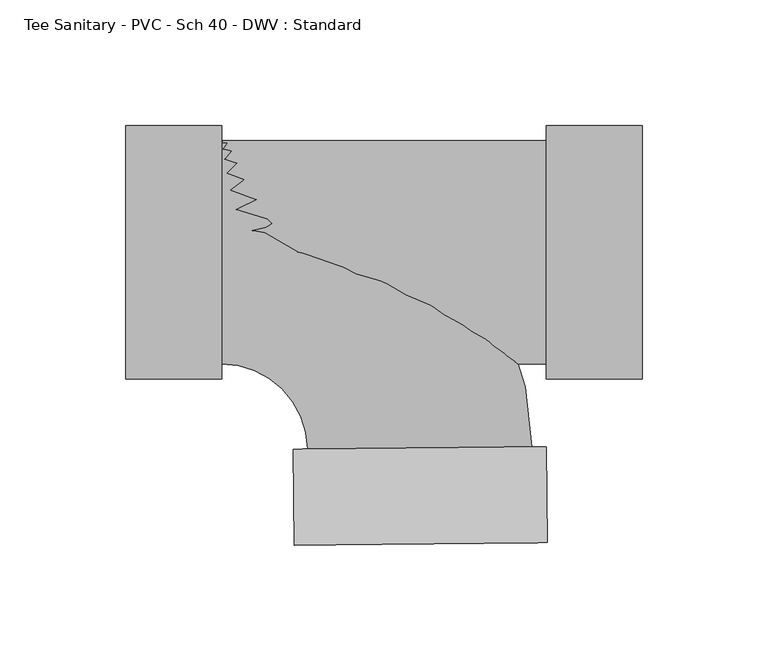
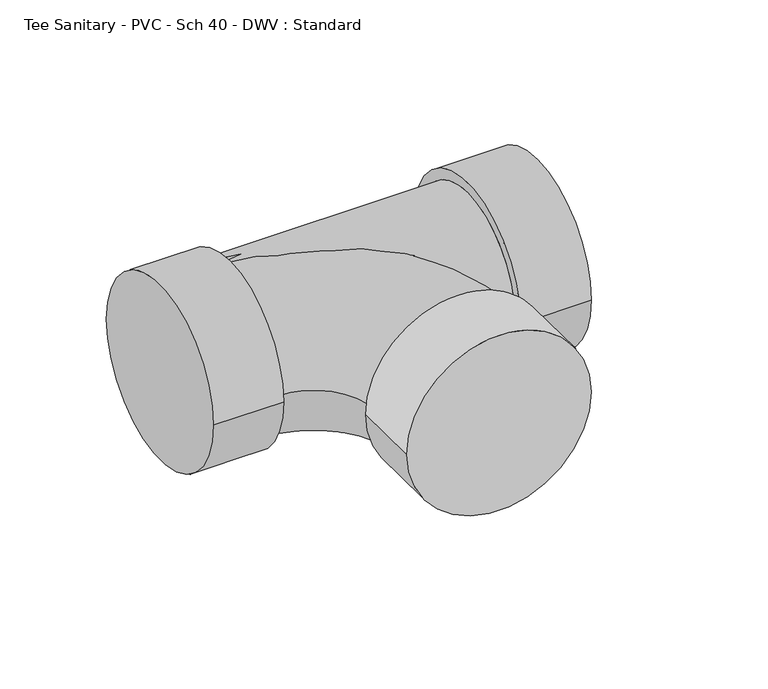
"""IFC4 building model written with IfcOpenShell, lengths in millimetres: pipe fitting geometry, Tee Sanitary - PVC - Sch 40 - DWV : Standard."""

from ifc_helpers import new_model, si_unit, point, frame, origin, place, context, project, spatial, circle_curve, ellipse_curve, trimmed, source, transform, mapped, element, save
from ifc_brep_helpers import plane_surface, cylinder_surface, revolved_surface, advanced_brep


def tee_sanitary_pvc_sch_40_dwv_standard_33d2d55c(model_context):
    return source(origin(), model_context, "Body", "AdvancedBrep", [
        advanced_brep(
        [(-77.8002, -44.45, 0.0), (-77.8002, 44.45, 0.0), (-43.6559239, -78.2485395, 0.0), (45.2394722, -77.3438024, 0.0), (51.4435155, -115.3826337, 0.0), (-49.0844782, -116.405762, 0.0), (51.055771, -77.2846068, 0.0), (-49.4722227, -78.3077351, 0.0)],
        [
            (0, 1, circle_curve(frame((-77.8002, 0.0, 0.0), z_axis=(-1.0, 0.0, 0.0), x_axis=(0.0, 1.0, 0.0)), 44.45)),
            (1, 0, circle_curve(frame((-77.8002, 0.0, 0.0), z_axis=(-1.0, 0.0, 0.0), x_axis=(0.0, 1.0, 0.0)), 44.45)),
            (0, 2, circle_curve(frame((-77.8002, -78.5960444, 0.0), z_axis=(0.0, 0.0, -1.0), x_axis=(0.0, 1.0, 0.0)), 34.1460444)),
            (2, 3, circle_curve(frame((0.7917742, -77.7961709, 0.0), z_axis=(-0.010177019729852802, 0.9999482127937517, 0.0), x_axis=(0.9999482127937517, 0.010177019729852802, 0.0)), 44.45)),
            (3, 1, circle_curve(frame((-77.8002, -78.5960444, 0.0), z_axis=(0.0, 0.0, 1.0), x_axis=(0.0, 1.0, 0.0)), 123.0460444)),
            (3, 2, circle_curve(frame((0.7917742, -77.7961709, 0.0), z_axis=(-0.010177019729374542, 0.9999482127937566, 0.0), x_axis=(0.9999482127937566, 0.010177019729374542, 0.0)), 44.45)),
            (4, 5, circle_curve(frame((1.1795186, -115.8941979, 0.0), z_axis=(0.010177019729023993, -0.9999482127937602, 0.0), x_axis=(-0.9999482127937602, -0.010177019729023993, 0.0)), 50.2666)),
            (5, 4, circle_curve(frame((1.1795186, -115.8941979, 0.0), z_axis=(0.010177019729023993, -0.9999482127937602, 0.0), x_axis=(-0.9999482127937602, -0.010177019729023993, 0.0)), 50.2666)),
            (6, 7, circle_curve(frame((0.7917742, -77.7961709, 0.0), z_axis=(-0.010177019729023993, 0.9999482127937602, 0.0), x_axis=(-0.9999482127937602, -0.010177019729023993, 0.0)), 50.2666)),
            (7, 6, circle_curve(frame((0.7917742, -77.7961709, 0.0), z_axis=(-0.010177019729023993, 0.9999482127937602, 0.0), x_axis=(-0.9999482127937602, -0.010177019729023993, 0.0)), 50.2666)),
            (4, 6),
            (7, 5),
        ],
        [
            plane_surface(frame((-77.8002, 0.0, 0.0), z_axis=(-1.0, 0.0, 0.0), x_axis=(0.0, 0.0, 1.0))),
            revolved_surface(trimmed(ellipse_curve(frame((-77.8002, 0.0, 0.0), z_axis=(-1.0, 0.0, 0.0), x_axis=(0.0, 1.0, 0.0)), 44.45, 44.45), [point((-77.8002, -44.45, 0.0))], [point((-77.8002, 44.45, 0.0))], True, "CARTESIAN"), (-77.8002, -78.5960444, 0.0), (0.0, 0.0, -1.0)),
            revolved_surface(trimmed(ellipse_curve(frame((-77.8002, 0.0, 0.0), z_axis=(-1.0, 0.0, 0.0), x_axis=(0.0, 1.0, 0.0)), 44.45, 44.45), [point((-77.8002, 44.45, 0.0))], [point((-77.8002, -44.45, 0.0))], True, "CARTESIAN"), (-77.8002, -78.5960444, 0.0), (0.0, 0.0, -1.0)),
            plane_surface(frame((1.1795186, -115.8941979, 0.0), z_axis=(0.010177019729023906, -0.9999482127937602, 0.0), x_axis=(0.0, 0.0, 1.0))),
            plane_surface(frame((0.7917742, -77.7961709, 0.0), z_axis=(-0.010177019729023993, 0.9999482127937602, 0.0), x_axis=(0.0, 0.0, 1.0))),
            cylinder_surface(frame((1.1795186, -115.8941979, 0.0), z_axis=(0.010177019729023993, -0.9999482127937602, 0.0), x_axis=(-0.9999482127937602, -0.010177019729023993, 0.0)), 50.2666),
        ],
        [
            (0, [[1, 2]]),
            (1, [[-1, 3, 4, 5]]),
            (2, [[-2, -5, 6, -3]]),
            (3, [[7, 8]]),
            (4, [[9, 10], [-4, -6]]),
            (5, [[-7, 11, -10, 12]]),
            (5, [[-8, -12, -9, -11]]),
        ],
    ),
        advanced_brep(
        [(-77.8002, -44.45, 0.0), (51.055771, -44.45, 0.0), (51.055771, 44.45, 0.0), (-77.8002, 44.45, 0.0), (51.055771, -50.2666, 0.0), (51.055771, 50.2666, 0.0), (89.155771, -50.2666, 0.0), (89.155771, 50.2666, 0.0), (-115.9002, -50.2666, 0.0), (-115.9002, 50.2666, 0.0), (-77.8002, -50.2666, 0.0), (-77.8002, 50.2666, 0.0)],
        [
            (0, 1),
            (1, 2, circle_curve(frame((51.055771, 0.0, 0.0), z_axis=(-1.0, 0.0, 0.0), x_axis=(0.0, 1.0, 0.0)), 44.45)),
            (2, 3),
            (3, 0, circle_curve(frame((-77.8002, 0.0, 0.0), z_axis=(1.0, 0.0, 0.0), x_axis=(0.0, 1.0, 0.0)), 44.45)),
            (0, 3, circle_curve(frame((-77.8002, 0.0, 0.0), z_axis=(1.0, 0.0, 0.0), x_axis=(0.0, 1.0, 0.0)), 44.45)),
            (2, 1, circle_curve(frame((51.055771, 0.0, 0.0), z_axis=(-1.0, 0.0, 0.0), x_axis=(0.0, 1.0, 0.0)), 44.45)),
            (4, 5, circle_curve(frame((51.055771, 0.0, 0.0), z_axis=(-1.0, 0.0, 0.0), x_axis=(0.0, 1.0, 0.0)), 50.2666)),
            (5, 4, circle_curve(frame((51.055771, 0.0, 0.0), z_axis=(-1.0, 0.0, 0.0), x_axis=(0.0, 1.0, 0.0)), 50.2666)),
            (6, 7, circle_curve(frame((89.155771, 0.0, 0.0), z_axis=(1.0, 0.0, 0.0), x_axis=(0.0, 1.0, 0.0)), 50.2666)),
            (7, 6, circle_curve(frame((89.155771, 0.0, 0.0), z_axis=(1.0, 0.0, 0.0), x_axis=(0.0, 1.0, 0.0)), 50.2666)),
            (4, 6),
            (7, 5),
            (8, 9, circle_curve(frame((-115.9002, 0.0, 0.0), z_axis=(-1.0, 0.0, 0.0), x_axis=(0.0, 1.0, 0.0)), 50.2666)),
            (9, 8, circle_curve(frame((-115.9002, 0.0, 0.0), z_axis=(-1.0, 0.0, 0.0), x_axis=(0.0, 1.0, 0.0)), 50.2666)),
            (10, 11, circle_curve(frame((-77.8002, 0.0, 0.0), z_axis=(1.0, 0.0, 0.0), x_axis=(0.0, 1.0, 0.0)), 50.2666)),
            (11, 10, circle_curve(frame((-77.8002, 0.0, 0.0), z_axis=(1.0, 0.0, 0.0), x_axis=(0.0, 1.0, 0.0)), 50.2666)),
            (8, 10),
            (11, 9),
        ],
        [
            cylinder_surface(frame((-77.8002, 0.0, 0.0), z_axis=(-1.0, 0.0, 0.0), x_axis=(0.0, 1.0, 0.0)), 44.45),
            plane_surface(frame((51.055771, 0.0, 0.0), z_axis=(-1.0, 0.0, 0.0), x_axis=(0.0, 0.0, 1.0))),
            plane_surface(frame((89.155771, 0.0, 0.0), z_axis=(1.0, 0.0, 0.0), x_axis=(0.0, 0.0, 1.0))),
            cylinder_surface(frame((51.055771, 0.0, 0.0), z_axis=(-1.0, 0.0, 0.0), x_axis=(0.0, 1.0, 0.0)), 50.2666),
            plane_surface(frame((-115.9002, 0.0, 0.0), z_axis=(-1.0, 0.0, 0.0), x_axis=(0.0, 0.0, 1.0))),
            plane_surface(frame((-77.8002, 0.0, 0.0), z_axis=(1.0, 0.0, 0.0), x_axis=(0.0, 0.0, 1.0))),
            cylinder_surface(frame((-115.9002, 0.0, 0.0), z_axis=(-1.0, 0.0, 0.0), x_axis=(0.0, 1.0, 0.0)), 50.2666),
        ],
        [
            (0, [[1, 2, 3, 4]]),
            (0, [[-1, 5, -3, 6]]),
            (1, [[7, 8], [-2, -6]]),
            (2, [[9, 10]]),
            (3, [[-7, 11, -10, 12]]),
            (3, [[-8, -12, -9, -11]]),
            (4, [[13, 14]]),
            (5, [[15, 16], [-4, -5]]),
            (6, [[-13, 17, -16, 18]]),
            (6, [[-14, -18, -15, -17]]),
        ],
    ),
    ])


if __name__ == "__main__":
    model = new_model("IFC4")
    model_context = context("Model", 3, world=origin())
    ifc_project = project(units=[si_unit("LENGTHUNIT", "METRE", prefix="MILLI")], contexts=[model_context])
    site = spatial("IfcSite", under=ifc_project)
    building = spatial("IfcBuilding", under=site)
    placement = place(None, origin())
    tee_sanitary_pvc_sch_40_dwv_standard_shape = tee_sanitary_pvc_sch_40_dwv_standard_33d2d55c(model_context)
    element("IfcPipeFitting", 1, ObjectType="Tee Sanitary - PVC - Sch 40 - DWV : Standard", at=placement, inside=building, context=model_context, shape_type="MappedRepresentation", body=[
        mapped(tee_sanitary_pvc_sch_40_dwv_standard_shape, transform((0.0, 0.0, 0.0), x_axis=(1.0, 0.0, 0.0), y_axis=(0.0, 1.0, 0.0), z_axis=(0.0, 0.0, 1.0))),
    ])
    save(model, "model.ifc")
